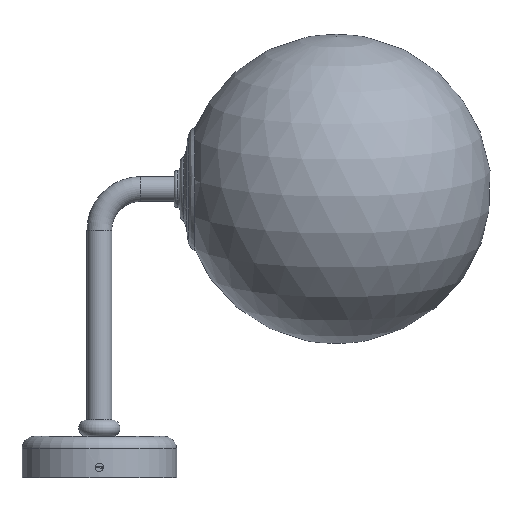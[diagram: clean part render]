
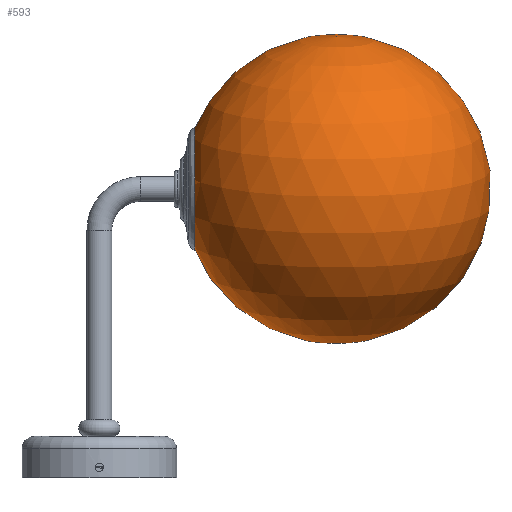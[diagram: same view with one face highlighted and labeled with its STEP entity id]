
A CAD part, front view. The second image highlights one B-rep face of the part: STEP entity #593.
In plain terms, the highlighted spherical face has radius 75 mm.
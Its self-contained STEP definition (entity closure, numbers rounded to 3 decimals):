
#75=FACE_BOUND('',#142,.T.);
#85=SPHERICAL_SURFACE('',#770,75.);
#104=FACE_OUTER_BOUND('',#141,.T.);
#141=EDGE_LOOP('',(#423,#424));
#142=EDGE_LOOP('',(#425));
#224=CIRCLE('',#767,6.);
#226=CIRCLE('',#771,75.);
#279=VERTEX_POINT('',#1092);
#281=VERTEX_POINT('',#1099);
#282=VERTEX_POINT('',#1100);
#337=EDGE_CURVE('',#279,#279,#224,.T.);
#340=EDGE_CURVE('',#281,#282,#226,.T.);
#423=ORIENTED_EDGE('',*,*,#340,.T.);
#424=ORIENTED_EDGE('',*,*,#340,.F.);
#425=ORIENTED_EDGE('',*,*,#337,.T.);
#593=ADVANCED_FACE('',(#104,#75),#85,.T.);
#767=AXIS2_PLACEMENT_3D('',#1093,#872,#873);
#770=AXIS2_PLACEMENT_3D('',#1098,#879,#880);
#771=AXIS2_PLACEMENT_3D('',#1101,#881,#882);
#872=DIRECTION('center_axis',(0.,1.,0.));
#873=DIRECTION('ref_axis',(1.,0.,0.));
#879=DIRECTION('center_axis',(0.,0.,1.));
#880=DIRECTION('ref_axis',(1.,0.,0.));
#881=DIRECTION('center_axis',(0.,-1.,0.));
#882=DIRECTION('ref_axis',(-1.,0.,0.));
#1092=CARTESIAN_POINT('',(-6.,0.24,0.));
#1093=CARTESIAN_POINT('Origin',(0.,0.24,0.));
#1098=CARTESIAN_POINT('Origin',(0.,75.,0.));
#1099=CARTESIAN_POINT('',(0.,75.,75.));
#1100=CARTESIAN_POINT('',(0.,75.,-75.));
#1101=CARTESIAN_POINT('Origin',(0.,75.,0.));
